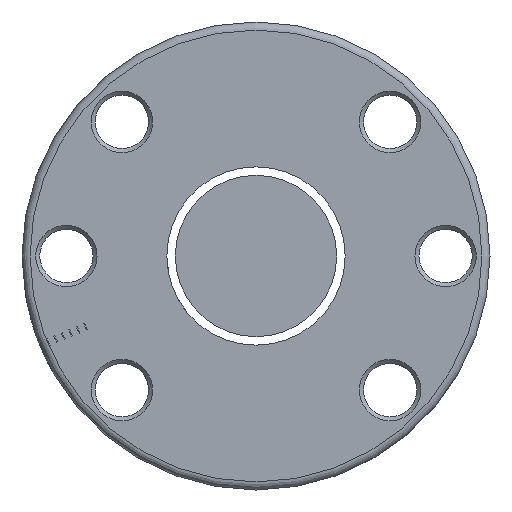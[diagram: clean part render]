
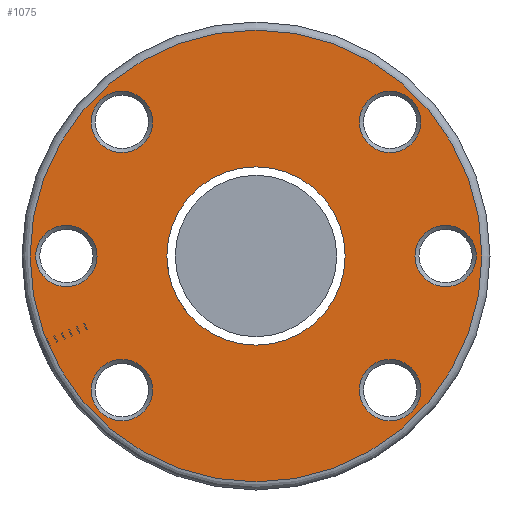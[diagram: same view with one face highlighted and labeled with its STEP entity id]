
A CAD part, left-side view. The second image highlights one B-rep face of the part: STEP entity #1075.
In plain terms, the highlighted planar face has unit normal (-1, 0, 0).
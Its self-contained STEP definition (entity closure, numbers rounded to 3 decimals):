
#4 = VERTEX_POINT ( 'NONE', #222 ) ;
#18 = VERTEX_POINT ( 'NONE', #2098 ) ;
#134 = FACE_BOUND ( 'NONE', #2020, .T. ) ;
#139 = DIRECTION ( 'NONE',  ( 0., -1., 0. ) ) ;
#171 = AXIS2_PLACEMENT_3D ( 'NONE', #2555, #671, #2620 ) ;
#175 = AXIS2_PLACEMENT_3D ( 'NONE', #1759, #319, #1988 ) ;
#182 = CARTESIAN_POINT ( 'NONE',  ( -51., -20.417, 16.617 ) ) ;
#218 = CIRCLE ( 'NONE', #175, 3.8 ) ;
#222 = CARTESIAN_POINT ( 'NONE',  ( -51., -28., 0. ) ) ;
#233 = VERTEX_POINT ( 'NONE', #182 ) ;
#305 = CIRCLE ( 'NONE', #1038, 28. ) ;
#319 = DIRECTION ( 'NONE',  ( 1., 0., 0. ) ) ;
#380 = DIRECTION ( 'NONE',  ( 1., 0., 0. ) ) ;
#383 = CARTESIAN_POINT ( 'NONE',  ( -51., -16.617, 16.617 ) ) ;
#391 = VERTEX_POINT ( 'NONE', #2052 ) ;
#393 = PLANE ( 'NONE',  #2276 ) ;
#397 = ORIENTED_EDGE ( 'NONE', *, *, #2059, .T. ) ;
#403 = AXIS2_PLACEMENT_3D ( 'NONE', #1314, #2385, #720 ) ;
#422 = ORIENTED_EDGE ( 'NONE', *, *, #801, .T. ) ;
#448 = DIRECTION ( 'NONE',  ( 1., 0., 0. ) ) ;
#488 = EDGE_CURVE ( 'NONE', #4, #4, #305, .T. ) ;
#491 = EDGE_LOOP ( 'NONE', ( #397 ) ) ;
#523 = AXIS2_PLACEMENT_3D ( 'NONE', #1555, #922, #1142 ) ;
#543 = CARTESIAN_POINT ( 'NONE',  ( -51., -27.3, 0. ) ) ;
#591 = CARTESIAN_POINT ( 'NONE',  ( -51., 29., 0. ) ) ;
#615 = CIRCLE ( 'NONE', #2143, 3.8 ) ;
#636 = ORIENTED_EDGE ( 'NONE', *, *, #2096, .T. ) ;
#647 = CARTESIAN_POINT ( 'NONE',  ( -51., 16.617, -16.617 ) ) ;
#671 = DIRECTION ( 'NONE',  ( 1., 0., 0. ) ) ;
#687 = DIRECTION ( 'NONE',  ( 0., -1., 0. ) ) ;
#698 = CARTESIAN_POINT ( 'NONE',  ( -51., 0., 0. ) ) ;
#720 = DIRECTION ( 'NONE',  ( 0., -1., 0. ) ) ;
#758 = FACE_BOUND ( 'NONE', #2303, .T. ) ;
#791 = DIRECTION ( 'NONE',  ( 0., -1., 0. ) ) ;
#801 = EDGE_CURVE ( 'NONE', #2279, #2279, #218, .T. ) ;
#823 = EDGE_LOOP ( 'NONE', ( #837 ) ) ;
#837 = ORIENTED_EDGE ( 'NONE', *, *, #1318, .T. ) ;
#838 = EDGE_CURVE ( 'NONE', #18, #18, #1692, .T. ) ;
#922 = DIRECTION ( 'NONE',  ( 1., 0., 0. ) ) ;
#959 = DIRECTION ( 'NONE',  ( -1., 0., 0. ) ) ;
#1038 = AXIS2_PLACEMENT_3D ( 'NONE', #698, #2350, #687 ) ;
#1075 = ADVANCED_FACE ( 'NONE', ( #1129, #2182, #134, #2234, #1624, #1830, #758, #2684 ), #393, .T. ) ;
#1119 = ORIENTED_EDGE ( 'NONE', *, *, #1840, .T. ) ;
#1129 = FACE_OUTER_BOUND ( 'NONE', #1968, .T. ) ;
#1142 = DIRECTION ( 'NONE',  ( 0., -1., 0. ) ) ;
#1308 = VERTEX_POINT ( 'NONE', #543 ) ;
#1314 = CARTESIAN_POINT ( 'NONE',  ( -51., -23.5, 0. ) ) ;
#1318 = EDGE_CURVE ( 'NONE', #233, #233, #615, .T. ) ;
#1396 = EDGE_LOOP ( 'NONE', ( #1119 ) ) ;
#1480 = CIRCLE ( 'NONE', #403, 3.8 ) ;
#1518 = ORIENTED_EDGE ( 'NONE', *, *, #838, .T. ) ;
#1521 = CARTESIAN_POINT ( 'NONE',  ( -51., 11.05, 0. ) ) ;
#1555 = CARTESIAN_POINT ( 'NONE',  ( -51., 16.617, 16.617 ) ) ;
#1567 = CIRCLE ( 'NONE', #1690, 3.8 ) ;
#1613 = EDGE_LOOP ( 'NONE', ( #2297 ) ) ;
#1624 = FACE_BOUND ( 'NONE', #823, .T. ) ;
#1657 = AXIS2_PLACEMENT_3D ( 'NONE', #647, #448, #2127 ) ;
#1690 = AXIS2_PLACEMENT_3D ( 'NONE', #2685, #380, #2477 ) ;
#1692 = CIRCLE ( 'NONE', #523, 3.8 ) ;
#1729 = EDGE_CURVE ( 'NONE', #391, #391, #2105, .T. ) ;
#1759 = CARTESIAN_POINT ( 'NONE',  ( -51., -16.617, -16.617 ) ) ;
#1830 = FACE_BOUND ( 'NONE', #2082, .T. ) ;
#1840 = EDGE_CURVE ( 'NONE', #1308, #1308, #1480, .T. ) ;
#1968 = EDGE_LOOP ( 'NONE', ( #2060 ) ) ;
#1988 = DIRECTION ( 'NONE',  ( 0., -1., 0. ) ) ;
#2020 = EDGE_LOOP ( 'NONE', ( #422 ) ) ;
#2052 = CARTESIAN_POINT ( 'NONE',  ( -51., 12.817, -16.617 ) ) ;
#2059 = EDGE_CURVE ( 'NONE', #2149, #2149, #2669, .T. ) ;
#2060 = ORIENTED_EDGE ( 'NONE', *, *, #488, .T. ) ;
#2082 = EDGE_LOOP ( 'NONE', ( #1518 ) ) ;
#2096 = EDGE_CURVE ( 'NONE', #2368, #2368, #1567, .T. ) ;
#2098 = CARTESIAN_POINT ( 'NONE',  ( -51., 12.817, 16.617 ) ) ;
#2105 = CIRCLE ( 'NONE', #1657, 3.8 ) ;
#2127 = DIRECTION ( 'NONE',  ( 0., -1., 0. ) ) ;
#2143 = AXIS2_PLACEMENT_3D ( 'NONE', #383, #2444, #139 ) ;
#2149 = VERTEX_POINT ( 'NONE', #1521 ) ;
#2182 = FACE_BOUND ( 'NONE', #1613, .T. ) ;
#2234 = FACE_BOUND ( 'NONE', #1396, .T. ) ;
#2276 = AXIS2_PLACEMENT_3D ( 'NONE', #591, #959, #791 ) ;
#2279 = VERTEX_POINT ( 'NONE', #2710 ) ;
#2297 = ORIENTED_EDGE ( 'NONE', *, *, #1729, .T. ) ;
#2303 = EDGE_LOOP ( 'NONE', ( #636 ) ) ;
#2350 = DIRECTION ( 'NONE',  ( -1., 0., 0. ) ) ;
#2368 = VERTEX_POINT ( 'NONE', #2628 ) ;
#2385 = DIRECTION ( 'NONE',  ( 1., 0., 0. ) ) ;
#2444 = DIRECTION ( 'NONE',  ( 1., 0., 0. ) ) ;
#2477 = DIRECTION ( 'NONE',  ( 0., -1., 0. ) ) ;
#2555 = CARTESIAN_POINT ( 'NONE',  ( -51., 0., 0. ) ) ;
#2620 = DIRECTION ( 'NONE',  ( 0., 1., 0. ) ) ;
#2628 = CARTESIAN_POINT ( 'NONE',  ( -51., 19.7, 0. ) ) ;
#2669 = CIRCLE ( 'NONE', #171, 11.05 ) ;
#2684 = FACE_BOUND ( 'NONE', #491, .T. ) ;
#2685 = CARTESIAN_POINT ( 'NONE',  ( -51., 23.5, 0. ) ) ;
#2710 = CARTESIAN_POINT ( 'NONE',  ( -51., -20.417, -16.617 ) ) ;
